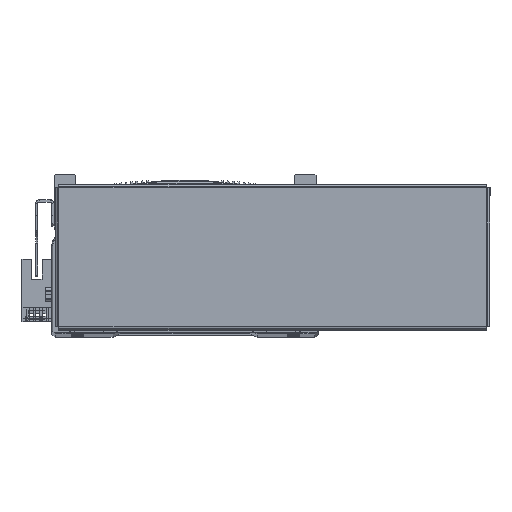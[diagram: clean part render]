
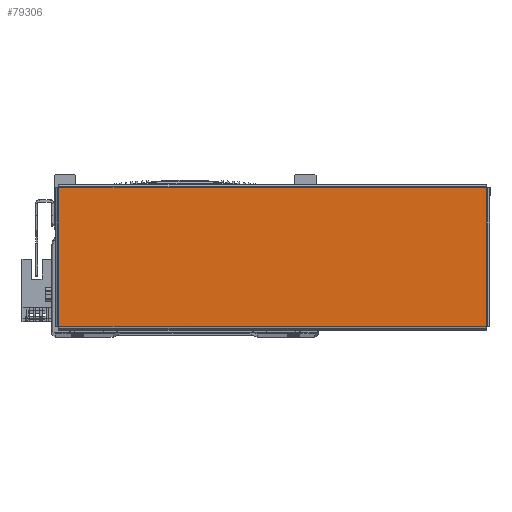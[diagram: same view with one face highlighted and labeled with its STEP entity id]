
A CAD part, top view. The second image highlights one B-rep face of the part: STEP entity #79306.
In plain terms, the highlighted planar face has unit normal (0, 0, 1) as drawn and (0, 0, -1) by its records, which use the part's own axes.
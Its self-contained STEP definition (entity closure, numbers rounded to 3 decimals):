
#3424 = FACE_OUTER_BOUND ( 'NONE', #69617, .T. ) ;
#11034 = VECTOR ( 'NONE', #39182, 1000. ) ;
#11053 = LINE ( 'NONE', #39184, #11034 ) ;
#11152 = LINE ( 'NONE', #39368, #11157 ) ;
#11154 = VECTOR ( 'NONE', #39398, 1000. ) ;
#11157 = VECTOR ( 'NONE', #39402, 1000. ) ;
#11159 = VECTOR ( 'NONE', #39367, 1000. ) ;
#11176 = LINE ( 'NONE', #39405, #11154 ) ;
#11181 = LINE ( 'NONE', #39366, #11159 ) ;
#16349 = CARTESIAN_POINT ( 'NONE',  ( -97.863, -31.763, -1. ) ) ;
#16470 = CARTESIAN_POINT ( 'NONE',  ( 97.863, 31.763, -1. ) ) ;
#16519 = CARTESIAN_POINT ( 'NONE',  ( 97.863, -31.763, -1. ) ) ;
#39182 = DIRECTION ( 'NONE',  ( 0., -1., 0. ) ) ;
#39184 = CARTESIAN_POINT ( 'NONE',  ( 97.863, 31.793, -1. ) ) ;
#39366 = CARTESIAN_POINT ( 'NONE',  ( -97.893, 31.763, -1. ) ) ;
#39367 = DIRECTION ( 'NONE',  ( 1., 0., 0. ) ) ;
#39368 = CARTESIAN_POINT ( 'NONE',  ( -97.863, -31.793, -1. ) ) ;
#39398 = DIRECTION ( 'NONE',  ( -1., 0., 0. ) ) ;
#39402 = DIRECTION ( 'NONE',  ( 0., 1., 0. ) ) ;
#39405 = CARTESIAN_POINT ( 'NONE',  ( 97.893, -31.763, -1. ) ) ;
#39467 = CARTESIAN_POINT ( 'NONE',  ( -97.863, 31.763, -1. ) ) ;
#56717 = EDGE_CURVE ( 'NONE', #77264, #77304, #11053, .T. ) ;
#56862 = EDGE_CURVE ( 'NONE', #62820, #77264, #11181, .T. ) ;
#56868 = EDGE_CURVE ( 'NONE', #77304, #77260, #11176, .T. ) ;
#56882 = EDGE_CURVE ( 'NONE', #77260, #62820, #11152, .T. ) ;
#62820 = VERTEX_POINT ( 'NONE', #39467 ) ;
#63443 = ORIENTED_EDGE ( 'NONE', *, *, #56717, .T. ) ;
#63451 = ORIENTED_EDGE ( 'NONE', *, *, #56862, .T. ) ;
#63453 = ORIENTED_EDGE ( 'NONE', *, *, #56882, .T. ) ;
#63567 = ORIENTED_EDGE ( 'NONE', *, *, #56868, .T. ) ;
#69617 = EDGE_LOOP ( 'NONE', ( #63443, #63567, #63453, #63451 ) ) ;
#73212 = PLANE ( 'NONE',  #84032 ) ;
#73215 = DIRECTION ( 'NONE',  ( 0., 0., 1. ) ) ;
#73233 = CARTESIAN_POINT ( 'NONE',  ( 0., 0., -1. ) ) ;
#73242 = DIRECTION ( 'NONE',  ( 1., 0., 0. ) ) ;
#77260 = VERTEX_POINT ( 'NONE', #16349 ) ;
#77264 = VERTEX_POINT ( 'NONE', #16470 ) ;
#77304 = VERTEX_POINT ( 'NONE', #16519 ) ;
#79306 = ADVANCED_FACE ( 'NONE', ( #3424 ), #73212, .F. ) ;
#84032 = AXIS2_PLACEMENT_3D ( 'NONE', #73233, #73215, #73242 ) ;
